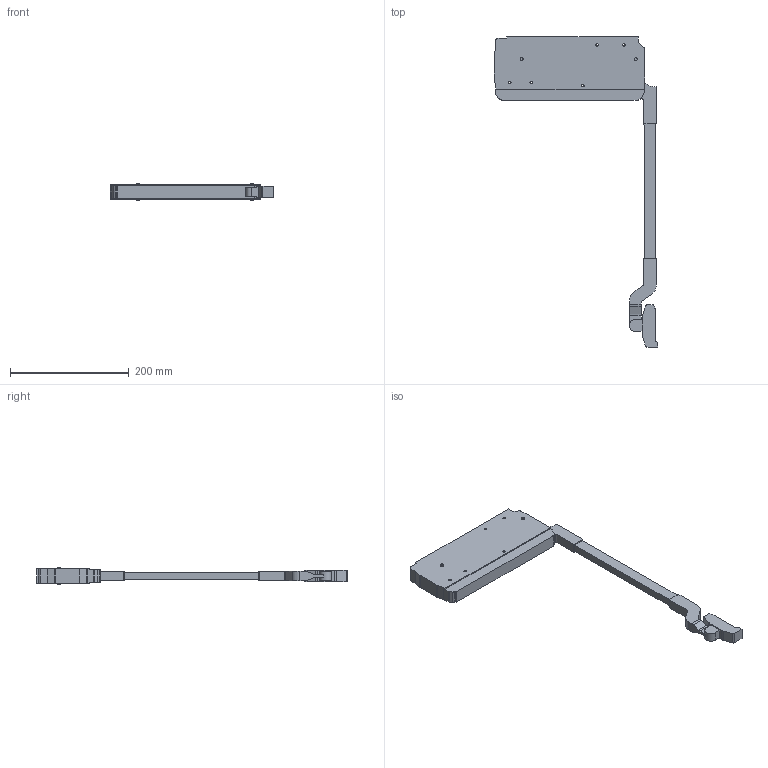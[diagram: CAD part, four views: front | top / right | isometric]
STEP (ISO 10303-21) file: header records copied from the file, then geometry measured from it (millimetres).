
FILE_DESCRIPTION (( 'STEP AP214' ), '1' );
FILE_NAME ('ST06AM(H).STEP', '2021-04-10T05:36:36', ( 'Windows 蚚誧' ), ( '' ), 'SwSTEP 2.0', 'SolidWorks 2018', '' );
FILE_SCHEMA (( 'AUTOMOTIVE_DESIGN' ));
Length unit declared in the file: millimetre
Products named in the file (1): ST06AM(H)
Bounding box: 275.2 x 522.78 x 28.6 mm (x, y, z)
Volume: 795159.8 mm3; surface area: 106936.6 mm2
Topology: 1 solids, 1 shells, 126 faces, 351 edges, 234 vertices
Faces by surface type: plane 68, cylinder 58
Entity records: 4578 total; most frequent: DIRECTION 723, CARTESIAN_POINT 712, ORIENTED_EDGE 702, EDGE_CURVE 351, AXIS2_PLACEMENT_3D 245, VERTEX_POINT 234, LINE 233, VECTOR 233
